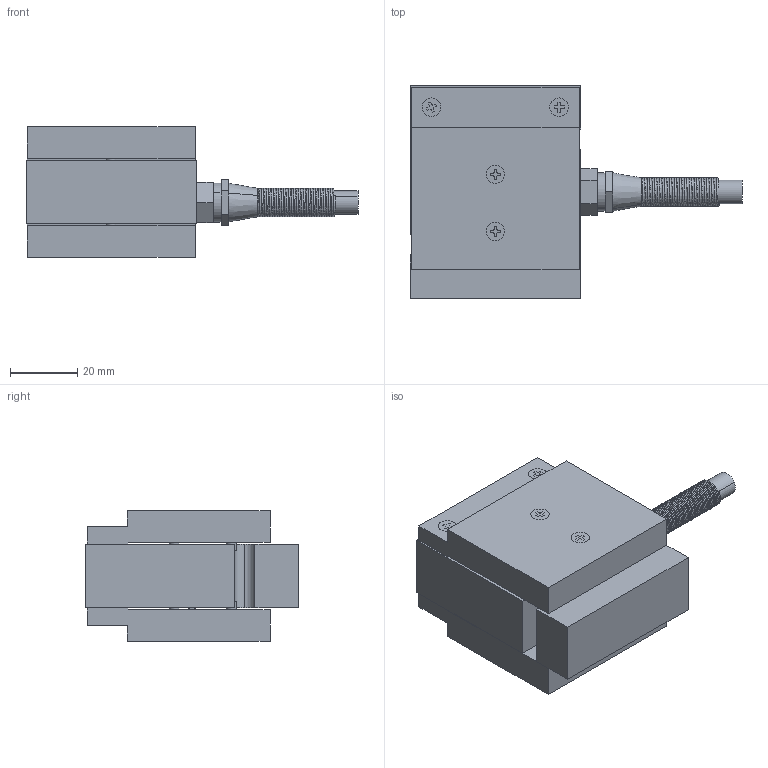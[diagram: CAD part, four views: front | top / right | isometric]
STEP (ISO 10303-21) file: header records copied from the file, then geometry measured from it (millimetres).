
FILE_DESCRIPTION (( 'STEP AP214' ), '1' );
FILE_NAME ('3D_KM1402_500N 1000N.STEP', '2014-01-17T13:09:29', ( '' ), ( '' ), 'SwSTEP 2.0', 'SolidWorks 2012', '' );
FILE_SCHEMA (( 'AUTOMOTIVE_DESIGN' ));
Length unit declared in the file: metre
Products named in the file (1): 3D_KM1402_500N 1000N
Bounding box: 98.9 x 63.5 x 39 mm (x, y, z)
Volume: 102807.3 mm3; surface area: 28103.1 mm2
Topology: 1 solids, 1 shells, 86 faces, 330 edges, 268 vertices
Faces by surface type: plane 67, cylinder 15, bspline 2, cone 2
Entity records: 13215 total; most frequent: CARTESIAN_POINT 9609, ORIENTED_EDGE 660, DIRECTION 586, EDGE_CURVE 330, VERTEX_POINT 268, LINE 236, VECTOR 236, AXIS2_PLACEMENT_3D 175
